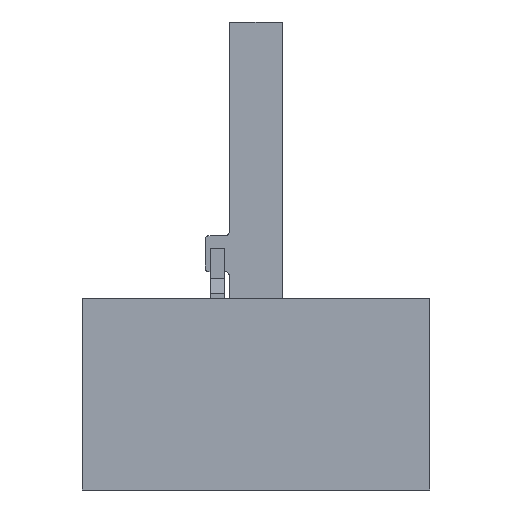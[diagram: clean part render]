
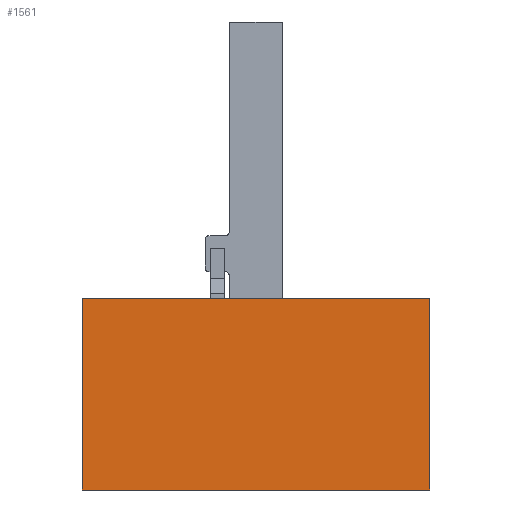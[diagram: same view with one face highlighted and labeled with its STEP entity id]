
A CAD part, front view. The second image highlights one B-rep face of the part: STEP entity #1561.
In plain terms, the highlighted planar face has unit normal (0, -1, 0).
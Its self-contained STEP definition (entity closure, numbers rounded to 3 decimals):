
#70 = LINE ( 'NONE', #1785, #1764 ) ;
#200 = AXIS2_PLACEMENT_3D ( 'NONE', #1485, #1499, #556 ) ;
#421 = EDGE_LOOP ( 'NONE', ( #2252, #1262, #2116, #909 ) ) ;
#423 = VECTOR ( 'NONE', #1027, 1000. ) ;
#466 = CARTESIAN_POINT ( 'NONE',  ( 0., 0., -48. ) ) ;
#556 = DIRECTION ( 'NONE',  ( 1., 0., 0. ) ) ;
#560 = LINE ( 'NONE', #948, #960 ) ;
#710 = VERTEX_POINT ( 'NONE', #974 ) ;
#719 = FACE_OUTER_BOUND ( 'NONE', #421, .T. ) ;
#822 = LINE ( 'NONE', #2369, #2190 ) ;
#860 = LINE ( 'NONE', #1777, #423 ) ;
#909 = ORIENTED_EDGE ( 'NONE', *, *, #1895, .F. ) ;
#948 = CARTESIAN_POINT ( 'NONE',  ( 69., 0., -48. ) ) ;
#960 = VECTOR ( 'NONE', #1870, 1000. ) ;
#974 = CARTESIAN_POINT ( 'NONE',  ( 0., 0., -10. ) ) ;
#1027 = DIRECTION ( 'NONE',  ( 1., 0., 0. ) ) ;
#1259 = EDGE_CURVE ( 'NONE', #1520, #2304, #70, .T. ) ;
#1262 = ORIENTED_EDGE ( 'NONE', *, *, #1446, .F. ) ;
#1390 = CARTESIAN_POINT ( 'NONE',  ( 69., 0., -48. ) ) ;
#1446 = EDGE_CURVE ( 'NONE', #2304, #2414, #560, .T. ) ;
#1485 = CARTESIAN_POINT ( 'NONE',  ( 0., 0., -10. ) ) ;
#1499 = DIRECTION ( 'NONE',  ( 0., 1., 0. ) ) ;
#1520 = VERTEX_POINT ( 'NONE', #2436 ) ;
#1561 = ADVANCED_FACE ( 'NONE', ( #719 ), #1696, .F. ) ;
#1643 = DIRECTION ( 'NONE',  ( 0., 0., -1. ) ) ;
#1696 = PLANE ( 'NONE',  #200 ) ;
#1764 = VECTOR ( 'NONE', #1643, 1000. ) ;
#1777 = CARTESIAN_POINT ( 'NONE',  ( 0., 0., -10. ) ) ;
#1785 = CARTESIAN_POINT ( 'NONE',  ( 69., 0., -10. ) ) ;
#1870 = DIRECTION ( 'NONE',  ( -1., 0., 0. ) ) ;
#1895 = EDGE_CURVE ( 'NONE', #710, #1520, #860, .T. ) ;
#1984 = DIRECTION ( 'NONE',  ( 0., 0., 1. ) ) ;
#2116 = ORIENTED_EDGE ( 'NONE', *, *, #1259, .F. ) ;
#2190 = VECTOR ( 'NONE', #1984, 1000. ) ;
#2249 = EDGE_CURVE ( 'NONE', #2414, #710, #822, .T. ) ;
#2252 = ORIENTED_EDGE ( 'NONE', *, *, #2249, .F. ) ;
#2304 = VERTEX_POINT ( 'NONE', #1390 ) ;
#2369 = CARTESIAN_POINT ( 'NONE',  ( 0., 0., -48. ) ) ;
#2414 = VERTEX_POINT ( 'NONE', #466 ) ;
#2436 = CARTESIAN_POINT ( 'NONE',  ( 69., 0., -10. ) ) ;
